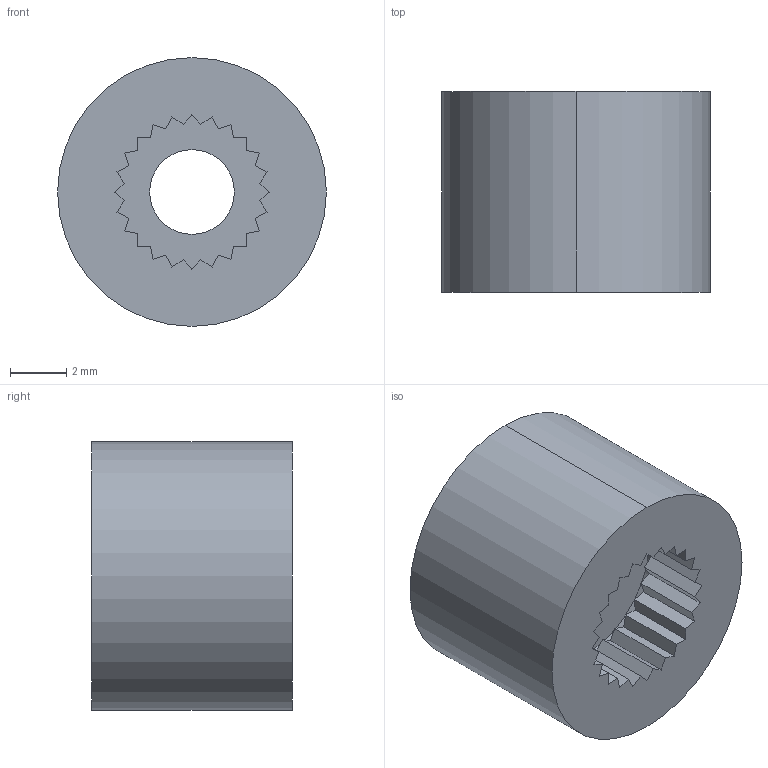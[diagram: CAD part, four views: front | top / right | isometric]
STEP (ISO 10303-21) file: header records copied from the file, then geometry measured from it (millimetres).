
FILE_DESCRIPTION (( 'STEP AP203' ), '1' );
FILE_NAME ('CSC hitec adaptor.STEP', '2015-03-10T16:04:36', ( 'Kyle' ), ( 'Microsoft' ), 'SwSTEP 2.0', 'SolidWorks 2014', '' );
FILE_SCHEMA (( 'CONFIG_CONTROL_DESIGN' ));
Length unit declared in the file: inch
Products named in the file (1): CSC hitec adaptor
Bounding box: 9.52 x 7.11 x 9.52 mm (x, y, z)
Volume: 313.6 mm3; surface area: 504.7 mm2
Topology: 1 solids, 1 shells, 61 faces, 168 edges, 112 vertices
Faces by surface type: plane 53, cylinder 8
Entity records: 2001 total; most frequent: CARTESIAN_POINT 342, ORIENTED_EDGE 336, DIRECTION 308, EDGE_CURVE 168, LINE 152, VECTOR 152, VERTEX_POINT 112, AXIS2_PLACEMENT_3D 78
